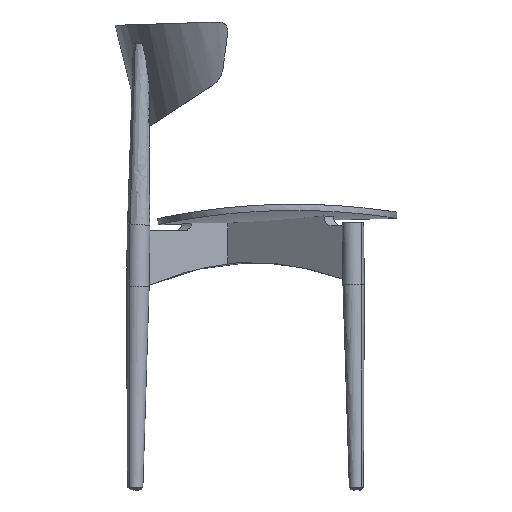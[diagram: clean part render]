
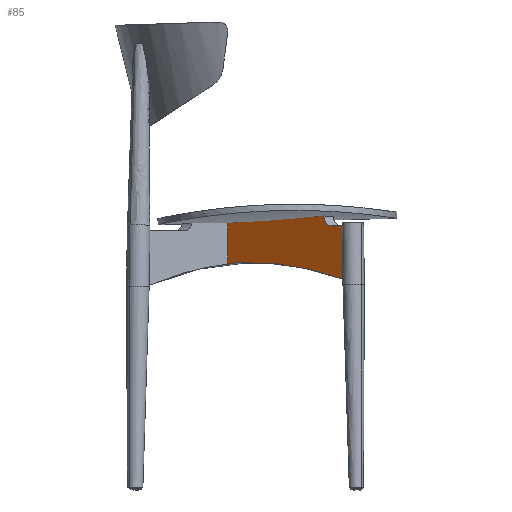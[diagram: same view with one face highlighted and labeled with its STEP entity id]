
A CAD part, left-side view. The second image highlights one B-rep face of the part: STEP entity #85.
In plain terms, the highlighted planar face has unit normal (-0.765, 0.644, 0).
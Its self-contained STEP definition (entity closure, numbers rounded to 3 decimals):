
#85=ADVANCED_FACE('',(#188),#1349,.T.);
#188=FACE_OUTER_BOUND('',#291,.T.);
#291=EDGE_LOOP('',(#526,#527,#528,#529,#530,#531,#532,#533,#534,#535,#536,
#537,#538));
#526=ORIENTED_EDGE('',*,*,#879,.T.);
#527=ORIENTED_EDGE('',*,*,#881,.T.);
#528=ORIENTED_EDGE('',*,*,#843,.T.);
#529=ORIENTED_EDGE('',*,*,#842,.T.);
#530=ORIENTED_EDGE('',*,*,#866,.F.);
#531=ORIENTED_EDGE('',*,*,#858,.T.);
#532=ORIENTED_EDGE('',*,*,#860,.T.);
#533=ORIENTED_EDGE('',*,*,#859,.T.);
#534=ORIENTED_EDGE('',*,*,#851,.F.);
#535=ORIENTED_EDGE('',*,*,#856,.T.);
#536=ORIENTED_EDGE('',*,*,#848,.T.);
#537=ORIENTED_EDGE('',*,*,#871,.F.);
#538=ORIENTED_EDGE('',*,*,#873,.T.);
#842=EDGE_CURVE('',#1242,#1248,#1114,.T.);
#843=EDGE_CURVE('',#1241,#1242,#1000,.T.);
#848=EDGE_CURVE('',#1245,#1259,#1118,.T.);
#851=EDGE_CURVE('',#1249,#1247,#1121,.T.);
#856=EDGE_CURVE('',#1249,#1245,#1002,.T.);
#858=EDGE_CURVE('',#1253,#1254,#1126,.T.);
#859=EDGE_CURVE('',#1255,#1247,#1127,.T.);
#860=EDGE_CURVE('',#1254,#1255,#1128,.T.);
#866=EDGE_CURVE('',#1253,#1248,#1134,.T.);
#871=EDGE_CURVE('',#1262,#1259,#1139,.T.);
#873=EDGE_CURVE('',#1262,#1267,#1004,.T.);
#879=EDGE_CURVE('',#1267,#1265,#1145,.T.);
#881=EDGE_CURVE('',#1265,#1241,#1147,.T.);
#1000=(
BOUNDED_CURVE()
B_SPLINE_CURVE(2,(#4844,#4845,#4846),.UNSPECIFIED.,.F.,.F.)
B_SPLINE_CURVE_WITH_KNOTS((3,3),(-23.562,0.),.UNSPECIFIED.)
CURVE()
GEOMETRIC_REPRESENTATION_ITEM()
RATIONAL_B_SPLINE_CURVE((1.,0.707,1.))
REPRESENTATION_ITEM('')
);
#1002=(
BOUNDED_CURVE()
B_SPLINE_CURVE(2,(#4884,#4885,#4886),.UNSPECIFIED.,.F.,.F.)
B_SPLINE_CURVE_WITH_KNOTS((3,3),(3.856,23.562),
 .UNSPECIFIED.)
CURVE()
GEOMETRIC_REPRESENTATION_ITEM()
RATIONAL_B_SPLINE_CURVE((1.,0.787,1.))
REPRESENTATION_ITEM('')
);
#1004=(
BOUNDED_CURVE()
B_SPLINE_CURVE(2,(#4952,#4953,#4954,#4955,#4956),.UNSPECIFIED.,.F.,.F.)
B_SPLINE_CURVE_WITH_KNOTS((3,2,3),(928.92,1178.097,1392.69),
 .UNSPECIFIED.)
CURVE()
GEOMETRIC_REPRESENTATION_ITEM()
RATIONAL_B_SPLINE_CURVE((1.,0.988,1.,0.991,1.))
REPRESENTATION_ITEM('')
);
#1114=B_SPLINE_CURVE_WITH_KNOTS('',1,(#4842,#4843),.UNSPECIFIED.,.F.,.F.,
(2,2),(138.361,139.819),.UNSPECIFIED.);
#1118=B_SPLINE_CURVE_WITH_KNOTS('',1,(#4856,#4857),.UNSPECIFIED.,.F.,.F.,
(2,2),(382.168,456.624),.UNSPECIFIED.);
#1121=B_SPLINE_CURVE_WITH_KNOTS('',3,(#4862,#4863,#4864,#4865),
 .UNSPECIFIED.,.F.,.F.,(4,4),(112.428,185.379),
 .UNSPECIFIED.);
#1126=B_SPLINE_CURVE_WITH_KNOTS('',1,(#4890,#4891),.UNSPECIFIED.,.F.,.F.,
(2,2),(43.496,56.789),.UNSPECIFIED.);
#1127=B_SPLINE_CURVE_WITH_KNOTS('',1,(#4892,#4893),.UNSPECIFIED.,.F.,.F.,
(2,2),(-56.789,-43.723),.UNSPECIFIED.);
#1128=B_SPLINE_CURVE_WITH_KNOTS('',1,(#4894,#4895),.UNSPECIFIED.,.F.,.F.,
(2,2),(270.311,294.668),.UNSPECIFIED.);
#1134=B_SPLINE_CURVE_WITH_KNOTS('',3,(#4910,#4911,#4912,#4913),
 .UNSPECIFIED.,.F.,.F.,(4,4),(24.381,230.184),
 .UNSPECIFIED.);
#1139=B_SPLINE_CURVE_WITH_KNOTS('',3,(#4944,#4945,#4946,#4947),
 .UNSPECIFIED.,.F.,.F.,(4,4),(26.154,115.389),
 .UNSPECIFIED.);
#1145=B_SPLINE_CURVE_WITH_KNOTS('',3,(#4994,#4995,#4996,#4997),
 .UNSPECIFIED.,.F.,.F.,(4,4),(9.543,96.86),
 .UNSPECIFIED.);
#1147=B_SPLINE_CURVE_WITH_KNOTS('',1,(#5002,#5003),.UNSPECIFIED.,.F.,.F.,
(2,2),(26.099,49.912),.UNSPECIFIED.);
#1241=VERTEX_POINT('',#4814);
#1242=VERTEX_POINT('',#4815);
#1245=VERTEX_POINT('',#4818);
#1247=VERTEX_POINT('',#4820);
#1248=VERTEX_POINT('',#4821);
#1249=VERTEX_POINT('',#4822);
#1253=VERTEX_POINT('',#4826);
#1254=VERTEX_POINT('',#4827);
#1255=VERTEX_POINT('',#4828);
#1259=VERTEX_POINT('',#4832);
#1262=VERTEX_POINT('',#4835);
#1265=VERTEX_POINT('',#4838);
#1267=VERTEX_POINT('',#4840);
#1349=PLANE('',#1558);
#1558=AXIS2_PLACEMENT_3D('',#4773,#1639,$);
#1639=DIRECTION('',(-0.765,0.644,0.));
#4773=CARTESIAN_POINT('',(-450.793,-1319.701,509.208));
#4814=CARTESIAN_POINT('',(-418.65,-1281.516,632.569));
#4815=CARTESIAN_POINT('',(-408.99,-1270.04,647.569));
#4818=CARTESIAN_POINT('',(-204.683,-1027.328,624.567));
#4820=CARTESIAN_POINT('',(-261.031,-1094.268,636.706));
#4821=CARTESIAN_POINT('',(-408.99,-1270.04,649.026));
#4822=CARTESIAN_POINT('',(-214.061,-1038.469,635.974));
#4826=CARTESIAN_POINT('',(-276.716,-1112.902,637.291));
#4827=CARTESIAN_POINT('',(-276.716,-1112.902,602.992));
#4828=CARTESIAN_POINT('',(-261.031,-1094.268,602.992));
#4832=CARTESIAN_POINT('',(-156.734,-970.366,624.567));
#4835=CARTESIAN_POINT('',(-155.732,-969.175,535.345));
#4838=CARTESIAN_POINT('',(-433.985,-1299.734,632.569));
#4840=CARTESIAN_POINT('',(-434.967,-1300.9,545.266));
#4842=CARTESIAN_POINT('',(-408.99,-1270.04,647.569));
#4843=CARTESIAN_POINT('',(-408.99,-1270.04,649.026));
#4844=CARTESIAN_POINT('',(-418.65,-1281.516,632.569));
#4845=CARTESIAN_POINT('',(-408.99,-1270.04,632.569));
#4846=CARTESIAN_POINT('',(-408.99,-1270.04,647.569));
#4856=CARTESIAN_POINT('',(-204.683,-1027.328,624.567));
#4857=CARTESIAN_POINT('',(-156.734,-970.366,624.567));
#4862=CARTESIAN_POINT('',(-214.061,-1038.469,635.974));
#4863=CARTESIAN_POINT('',(-229.721,-1057.072,635.963));
#4864=CARTESIAN_POINT('',(-245.379,-1075.674,636.207));
#4865=CARTESIAN_POINT('',(-261.031,-1094.268,636.706));
#4884=CARTESIAN_POINT('',(-214.061,-1038.469,635.974));
#4885=CARTESIAN_POINT('',(-212.249,-1036.316,624.567));
#4886=CARTESIAN_POINT('',(-204.683,-1027.328,624.567));
#4890=CARTESIAN_POINT('',(-276.716,-1112.902,637.291));
#4891=CARTESIAN_POINT('',(-276.716,-1112.902,602.992));
#4892=CARTESIAN_POINT('',(-261.031,-1094.268,602.992));
#4893=CARTESIAN_POINT('',(-261.031,-1094.268,636.706));
#4894=CARTESIAN_POINT('',(-276.716,-1112.902,602.992));
#4895=CARTESIAN_POINT('',(-261.031,-1094.268,602.992));
#4910=CARTESIAN_POINT('',(-276.716,-1112.902,637.291));
#4911=CARTESIAN_POINT('',(-320.853,-1165.335,639.178));
#4912=CARTESIAN_POINT('',(-364.991,-1217.77,643.089));
#4913=CARTESIAN_POINT('',(-408.99,-1270.04,649.026));
#4944=CARTESIAN_POINT('',(-155.732,-969.175,535.345));
#4945=CARTESIAN_POINT('',(-156.066,-969.572,565.086));
#4946=CARTESIAN_POINT('',(-156.4,-969.969,594.826));
#4947=CARTESIAN_POINT('',(-156.734,-970.366,624.567));
#4952=CARTESIAN_POINT('',(-155.732,-969.175,535.345));
#4953=CARTESIAN_POINT('',(-228.919,-1056.12,572.53));
#4954=CARTESIAN_POINT('',(-305.925,-1147.601,572.53));
#4955=CARTESIAN_POINT('',(-371.64,-1225.669,572.53));
#4956=CARTESIAN_POINT('',(-434.967,-1300.9,545.266));
#4994=CARTESIAN_POINT('',(-434.967,-1300.9,545.266));
#4995=CARTESIAN_POINT('',(-434.64,-1300.511,574.367));
#4996=CARTESIAN_POINT('',(-434.312,-1300.123,603.468));
#4997=CARTESIAN_POINT('',(-433.985,-1299.734,632.569));
#5002=CARTESIAN_POINT('',(-433.985,-1299.734,632.569));
#5003=CARTESIAN_POINT('',(-418.65,-1281.516,632.569));
